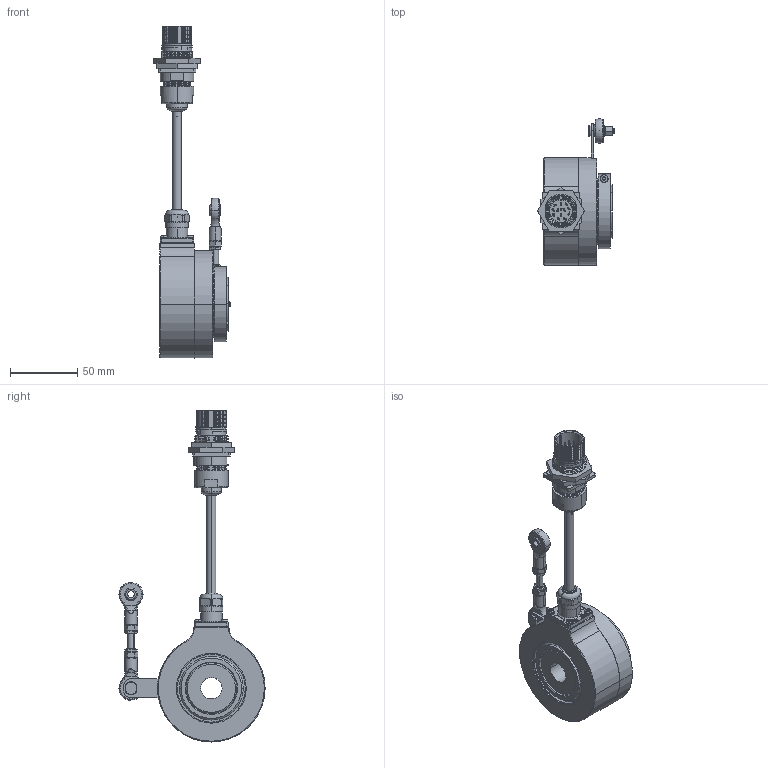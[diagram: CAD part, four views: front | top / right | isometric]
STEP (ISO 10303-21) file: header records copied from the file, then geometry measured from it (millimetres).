
FILE_DESCRIPTION (( 'STEP AP203' ), '1' );
FILE_NAME ('K80I.OXX.XXXXX.XH25816.6XR14.XXXX.step', '2025-12-09T11:01:27', ( '' ), ( '' ), 'SwSTEP 2.0', 'SolidWorks 2021', '' );
FILE_SCHEMA (( 'CONFIG_CONTROL_DESIGN' ));
Length unit declared in the file: millimetre
Products named in the file (1): K80I.OXX.XXXXX.XH25816.6XR14.XXXX
Bounding box: 56.92 x 108.97 x 247.43 mm (x, y, z)
Volume: 249574.2 mm3; surface area: 101897.5 mm2
Topology: 41 solids, 41 shells, 2264 faces, 5783 edges, 3673 vertices
Faces by surface type: cylinder 759, plane 725, cone 442, bspline 176, torus 106, sphere 56
Entity records: 77345 total; most frequent: CARTESIAN_POINT 23963, ORIENTED_EDGE 11442, DIRECTION 10886, EDGE_CURVE 5721, AXIS2_PLACEMENT_3D 4288, VERTEX_POINT 3669, EDGE_LOOP 2464, LINE 2310
